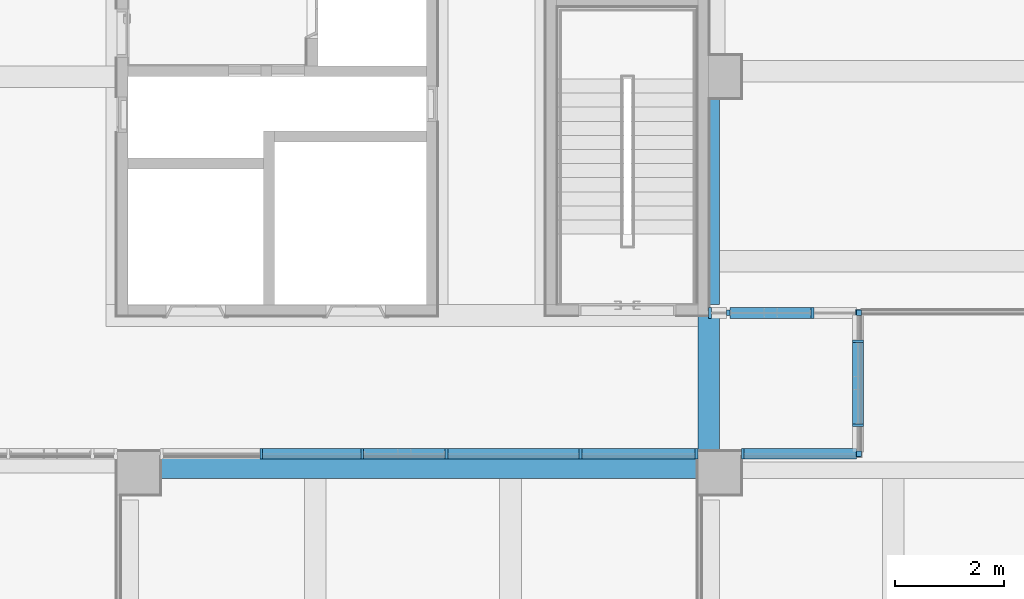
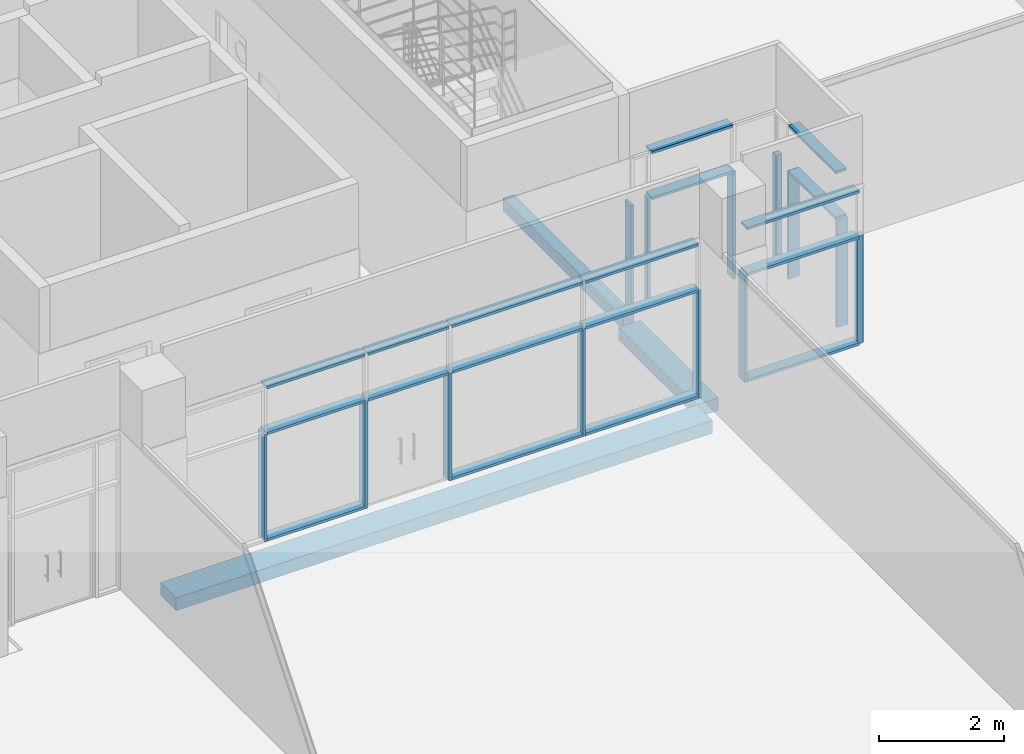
# One storey, part 6 of 74: 33 members, 2 beams, 4 elements without a shape of their own.
"""IFC2X3 building model written with IfcOpenShell, lengths in millimetres."""

from ifc_helpers import new_model, entity, si_unit, converted_unit, derived_unit, direction, frame, frame_2d, origin, origin_2d_with_axis, place, context, subcontext, project, spatial, rectangle, extrude, source, transform, mapped, material, type_object, type_shapes, element, aggregate, save


model = new_model("IFC2X3")

# Units and contexts
model_context = context("Model", 3, precision=0.01, world=origin(), true_north=direction((6.123031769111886e-17, 1.0)))
body_context = subcontext(model_context, "Body", "Model", "MODEL_VIEW")
ifc_project = project(units=[si_unit("LENGTHUNIT", "METRE", prefix="MILLI"), si_unit("AREAUNIT", "SQUARE_METRE"), si_unit("VOLUMEUNIT", "CUBIC_METRE"), converted_unit("PLANEANGLEUNIT", "DEGREE", entity("IfcRatioMeasure", 0.017453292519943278), si_unit("PLANEANGLEUNIT", "RADIAN"), dimensions=[0, 0, 0, 0, 0, 0, 0]), si_unit("MASSUNIT", "GRAM", prefix="KILO"), derived_unit("MASSDENSITYUNIT", [(si_unit("MASSUNIT", "GRAM", prefix="KILO"), 1), (si_unit("LENGTHUNIT", "METRE"), -3)]), derived_unit("MOMENTOFINERTIAUNIT", [(si_unit("LENGTHUNIT", "METRE"), 4)]), si_unit("TIMEUNIT", "SECOND"), si_unit("FREQUENCYUNIT", "HERTZ"), si_unit("THERMODYNAMICTEMPERATUREUNIT", "DEGREE_CELSIUS"), derived_unit("THERMALTRANSMITTANCEUNIT", [(si_unit("MASSUNIT", "GRAM", prefix="KILO"), 1), (si_unit("THERMODYNAMICTEMPERATUREUNIT", "KELVIN"), -1), (si_unit("TIMEUNIT", "SECOND"), -3)]), derived_unit("VOLUMETRICFLOWRATEUNIT", [(si_unit("LENGTHUNIT", "METRE"), 3), (si_unit("TIMEUNIT", "SECOND"), -1)]), derived_unit("MASSFLOWRATEUNIT", [(si_unit("MASSUNIT", "GRAM", prefix="KILO"), 1), (si_unit("TIMEUNIT", "SECOND"), -1)]), derived_unit("ROTATIONALFREQUENCYUNIT", [(si_unit("TIMEUNIT", "SECOND"), -1)]), si_unit("ELECTRICCURRENTUNIT", "AMPERE"), si_unit("ELECTRICVOLTAGEUNIT", "VOLT"), si_unit("POWERUNIT", "WATT"), si_unit("FORCEUNIT", "NEWTON", prefix="KILO"), si_unit("ILLUMINANCEUNIT", "LUX"), si_unit("LUMINOUSFLUXUNIT", "LUMEN"), si_unit("LUMINOUSINTENSITYUNIT", "CANDELA"), derived_unit("USERDEFINED", [(si_unit("MASSUNIT", "GRAM", prefix="KILO"), -1), (si_unit("LENGTHUNIT", "METRE"), -2), (si_unit("TIMEUNIT", "SECOND"), 3), (si_unit("LUMINOUSFLUXUNIT", "LUMEN"), 1)]), derived_unit("SOUNDPOWERUNIT", [(si_unit("MASSUNIT", "GRAM", prefix="KILO"), 1), (si_unit("LENGTHUNIT", "METRE"), 2), (si_unit("TIMEUNIT", "SECOND"), -3)]), derived_unit("SOUNDPRESSUREUNIT", [(si_unit("MASSUNIT", "GRAM", prefix="KILO"), 1), (si_unit("LENGTHUNIT", "METRE"), -1), (si_unit("TIMEUNIT", "SECOND"), -2)]), derived_unit("LINEARVELOCITYUNIT", [(si_unit("LENGTHUNIT", "METRE"), 1), (si_unit("TIMEUNIT", "SECOND"), -1)]), si_unit("PRESSUREUNIT", "PASCAL"), derived_unit("USERDEFINED", [(si_unit("LENGTHUNIT", "METRE"), -2), (si_unit("MASSUNIT", "GRAM", prefix="KILO"), 1), (si_unit("TIMEUNIT", "SECOND"), -2)]), derived_unit("LINEARFORCEUNIT", [(si_unit("MASSUNIT", "GRAM", prefix="KILO"), 1), (si_unit("LENGTHUNIT", "METRE"), 1), (si_unit("TIMEUNIT", "SECOND"), -2), (si_unit("LENGTHUNIT", "METRE"), -1)]), derived_unit("PLANARFORCEUNIT", [(si_unit("MASSUNIT", "GRAM", prefix="KILO"), 1), (si_unit("LENGTHUNIT", "METRE"), 1), (si_unit("TIMEUNIT", "SECOND"), -2), (si_unit("LENGTHUNIT", "METRE"), -2)])], contexts=[model_context])

# Site, building, storey
site_placement = place(None, frame((-14167.972527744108, -657.2125860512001, 0.0)))
site = spatial("IfcSite", under=ifc_project, at=site_placement, Name="Default", CompositionType="ELEMENT")
building_placement = place(site_placement, origin())
building = spatial("IfcBuilding", under=site, at=building_placement, Name="Sample Building", CompositionType="ELEMENT")
storey_placement = place(building_placement, frame((0.0, 0.0, 4800.0)))
storey = spatial("IfcBuildingStorey", under=building, at=storey_placement, Name="지상 2층", CompositionType="ELEMENT", Elevation=4800.000000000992)

# Curtain wall, members
curtain_wall_type = type_object("IfcCurtainWallType", Name="커튼월:CW112-스테인리스 스틸 커튼월", PredefinedType="NOTDEFINED")
curtain_wall_1_placement = place(storey_placement, frame((0.0, 0.0, -4800.0)))
curtain_wall_1 = element("IfcCurtainWall", 1, at=curtain_wall_1_placement, inside=storey, type_object=curtain_wall_type, Name="커튼월:CW112-스테인리스 스틸 커튼월", ObjectType="커튼월:CW112-스테인리스 스틸 커튼월")
ifc_material_1 = material(Name="<Unnamed>")
member_type_1 = type_object("IfcMemberType", Name="직사각형 멀리언:CW200-직사각형 멀리언 50x200mm", PredefinedType="MULLION", material=ifc_material_1)
shared_shape_1 = source(origin(), body_context, "Body", "SweptSolid", [
    extrude(rectangle(XDim=200.0, YDim=50.0, at=origin_2d_with_axis()), frame((0.0, 0.0, -2100.0), z_axis=(0.0, 0.0, 1.0), x_axis=(0.0, -1.0, 0.0)), (0.0, 0.0, 1.0), 2100.0),
])
type_shapes(member_type_1, [shared_shape_1])
member_1_placement = place(curtain_wall_1_placement, frame((32727.97249113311, 13012.212307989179, 4880.0), z_axis=(0.0, 0.0, -1.0), x_axis=(1.0, 0.0, 0.0)))
member_1 = element("IfcMember", 2, at=member_1_placement, type_object=member_type_1, material=ifc_material_1, Name="직사각형 멀리언:CW200-직사각형 멀리언 50x200mm", ObjectType="직사각형 멀리언:CW200-직사각형 멀리언 50x200mm", context=body_context, shape_type="MappedRepresentation", body=[
    mapped(shared_shape_1, transform((0.0, 0.0, 0.0), scale=1.0)),
])
member_2_placement = place(curtain_wall_1_placement, frame((34587.972491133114, 13012.212307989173, 4880.0), z_axis=(0.0, 0.0, -1.0), x_axis=(1.0, 0.0, 0.0)))
member_2 = element("IfcMember", 3, at=member_2_placement, type_object=member_type_1, material=ifc_material_1, Name="직사각형 멀리언:CW200-직사각형 멀리언 50x200mm", ObjectType="직사각형 멀리언:CW200-직사각형 멀리언 50x200mm", context=body_context, shape_type="MappedRepresentation", body=[
    mapped(shared_shape_1, transform((0.0, 0.0, 0.0), scale=1.0)),
])
member_3_placement = place(curtain_wall_1_placement, frame((36137.97249113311, 13012.212307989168, 4880.0), z_axis=(0.0, 0.0, -1.0), x_axis=(1.0, 0.0, 0.0)))
member_3 = element("IfcMember", 4, at=member_3_placement, type_object=member_type_1, material=ifc_material_1, Name="직사각형 멀리언:CW200-직사각형 멀리언 50x200mm", ObjectType="직사각형 멀리언:CW200-직사각형 멀리언 50x200mm", context=body_context, shape_type="MappedRepresentation", body=[
    mapped(shared_shape_1, transform((0.0, 0.0, 0.0), scale=1.0)),
])
member_4_placement = place(curtain_wall_1_placement, frame((38607.972491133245, 13012.212307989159, 4880.0), z_axis=(0.0, 0.0, -1.0), x_axis=(1.0, 0.0, 0.0)))
member_4 = element("IfcMember", 5, at=member_4_placement, type_object=member_type_1, material=ifc_material_1, Name="직사각형 멀리언:CW200-직사각형 멀리언 50x200mm", ObjectType="직사각형 멀리언:CW200-직사각형 멀리언 50x200mm", context=body_context, shape_type="MappedRepresentation", body=[
    mapped(shared_shape_1, transform((0.0, 0.0, 0.0), scale=1.0)),
])

curtain_wall_2_placement = place(storey_placement, frame((0.0, 0.0, -4800.0)))
curtain_wall_2 = element("IfcCurtainWall", 6, at=curtain_wall_2_placement, inside=storey, type_object=curtain_wall_type, Name="커튼월:CW112-스테인리스 스틸 커튼월", ObjectType="커튼월:CW112-스테인리스 스틸 커튼월")
member_5_placement = place(curtain_wall_2_placement, frame((43717.972491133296, 13537.177678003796, 4880.0), z_axis=(0.0, 0.0, -1.0), x_axis=(0.0, 1.0, 0.0)))
member_5 = element("IfcMember", 7, at=member_5_placement, type_object=member_type_1, material=ifc_material_1, Name="직사각형 멀리언:CW200-직사각형 멀리언 50x200mm", ObjectType="직사각형 멀리언:CW200-직사각형 멀리언 50x200mm", context=body_context, shape_type="MappedRepresentation", body=[
    mapped(shared_shape_1, transform((0.0, 0.0, 0.0), scale=1.0)),
])
member_6_placement = place(curtain_wall_2_placement, frame((43717.972491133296, 15087.177678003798, 4880.0), z_axis=(0.0, 0.0, -1.0), x_axis=(0.0, 1.0, 0.0)))
member_6 = element("IfcMember", 8, at=member_6_placement, type_object=member_type_1, material=ifc_material_1, Name="직사각형 멀리언:CW200-직사각형 멀리언 50x200mm", ObjectType="직사각형 멀리언:CW200-직사각형 멀리언 50x200mm", context=body_context, shape_type="MappedRepresentation", body=[
    mapped(shared_shape_1, transform((0.0, 0.0, 0.0), scale=1.0)),
])

# Curtain wall, member
curtain_wall_3_placement = place(storey_placement, frame((0.0, 0.0, -4800.0)))
curtain_wall_3 = element("IfcCurtainWall", 9, at=curtain_wall_3_placement, inside=storey, type_object=curtain_wall_type, Name="커튼월:CW112-스테인리스 스틸 커튼월", ObjectType="커튼월:CW112-스테인리스 스틸 커튼월")
member_type_2 = type_object("IfcMemberType", Name="직사각형 멀리언:CW200-직사각형 멀리언 50x200mm", PredefinedType="MULLION", material=ifc_material_1)
shared_shape_2 = source(origin(), body_context, "Body", "SweptSolid", [
    extrude(rectangle(XDim=200.0, YDim=50.0, at=origin_2d_with_axis()), frame((-25.0, 0.0, -2100.0), z_axis=(0.0, 0.0, 1.0), x_axis=(0.0, -1.0, 0.0)), (0.0, 0.0, 1.0), 2099.9999999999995),
])
type_shapes(member_type_2, [shared_shape_2])
member_7_placement = place(curtain_wall_3_placement, frame((41567.97249113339, 13012.19487839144, 6980.0), z_axis=(0.0, 0.0, 1.0), x_axis=(-1.0, 0.0, 0.0)))
member_7 = element("IfcMember", 10, at=member_7_placement, type_object=member_type_2, material=ifc_material_1, Name="직사각형 멀리언:CW200-직사각형 멀리언 50x200mm", ObjectType="직사각형 멀리언:CW200-직사각형 멀리언 50x200mm", context=body_context, shape_type="MappedRepresentation", body=[
    mapped(shared_shape_2, transform((0.0, 0.0, 0.0), scale=1.0)),
])

# Member
member_type_3 = type_object("IfcMemberType", Name="직사각형 멀리언:CW200-직사각형 멀리언 50x200mm", PredefinedType="MULLION", material=ifc_material_1)
shared_shape_3 = source(origin(), body_context, "Body", "SweptSolid", [
    extrude(rectangle(XDim=200.0, YDim=50.0, at=origin_2d_with_axis()), frame((-25.0, 0.0, -2100.0), z_axis=(0.0, 0.0, 1.0), x_axis=(0.0, -1.0, 0.0)), (0.0, 0.0, 1.0), 2100.0),
])
type_shapes(member_type_3, [shared_shape_3])
member_8_placement = place(curtain_wall_1_placement, frame((40767.9724911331, 13012.212307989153, 4880.0), z_axis=(0.0, 0.0, -1.0), x_axis=(1.0, 0.0, 0.0)))
member_8 = element("IfcMember", 11, at=member_8_placement, type_object=member_type_3, material=ifc_material_1, Name="직사각형 멀리언:CW200-직사각형 멀리언 50x200mm", ObjectType="직사각형 멀리언:CW200-직사각형 멀리언 50x200mm", context=body_context, shape_type="MappedRepresentation", body=[
    mapped(shared_shape_3, transform((0.0, 0.0, 0.0), scale=1.0)),
])

member_type_4 = type_object("IfcMemberType", Name="직사각형 멀리언:CW200-직사각형 멀리언 50x200mm", PredefinedType="MULLION", material=ifc_material_1)
shared_shape_4 = source(origin(), body_context, "Body", "SweptSolid", [
    extrude(rectangle(XDim=200.0, YDim=50.0, at=origin_2d_with_axis()), frame((-25.0, 0.0, -1500.0), z_axis=(0.0, 0.0, 1.0), x_axis=(0.0, -1.0, 0.0)), (0.0, 0.0, 1.0), 1500.0000000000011),
])
type_shapes(member_type_4, [shared_shape_4])
member_9_placement = place(curtain_wall_1_placement, frame((36112.97249113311, 13012.212307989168, 7900.0), z_axis=(1.0, 0.0, 0.0), x_axis=(0.0, 0.0, 1.0)))
member_9 = element("IfcMember", 12, at=member_9_placement, type_object=member_type_4, material=ifc_material_1, Name="직사각형 멀리언:CW200-직사각형 멀리언 50x200mm", ObjectType="직사각형 멀리언:CW200-직사각형 멀리언 50x200mm", context=body_context, shape_type="MappedRepresentation", body=[
    mapped(shared_shape_4, transform((0.0, 0.0, 0.0), scale=1.0)),
])

member_10_placement = place(curtain_wall_2_placement, frame((43717.972491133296, 15062.177678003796, 7900.0), z_axis=(0.0, 1.0, 0.0), x_axis=(0.0, 0.0, 1.0)))
member_10 = element("IfcMember", 13, at=member_10_placement, type_object=member_type_4, material=ifc_material_1, Name="직사각형 멀리언:CW200-직사각형 멀리언 50x200mm", ObjectType="직사각형 멀리언:CW200-직사각형 멀리언 50x200mm", context=body_context, shape_type="MappedRepresentation", body=[
    mapped(shared_shape_4, transform((0.0, 0.0, 0.0), scale=1.0)),
])

member_type_5 = type_object("IfcMemberType", Name="직사각형 멀리언:CW200-직사각형 멀리언 50x200mm", PredefinedType="MULLION", material=ifc_material_1)
shared_shape_5 = source(origin(), body_context, "Body", "SweptSolid", [
    extrude(rectangle(XDim=200.0, YDim=50.0, at=origin_2d_with_axis()), frame((0.0, 0.0, -1500.0), z_axis=(0.0, 0.0, 1.0), x_axis=(0.0, -1.0, 0.0)), (0.0, 0.0, 1.0), 1500.0000000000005),
])
type_shapes(member_type_5, [shared_shape_5])
member_11_placement = place(curtain_wall_1_placement, frame((36112.97249113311, 13012.212307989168, 6980.0), z_axis=(1.0, 0.0, 0.0), x_axis=(0.0, 0.0, 1.0)))
member_11 = element("IfcMember", 14, at=member_11_placement, type_object=member_type_5, material=ifc_material_1, Name="직사각형 멀리언:CW200-직사각형 멀리언 50x200mm", ObjectType="직사각형 멀리언:CW200-직사각형 멀리언 50x200mm", context=body_context, shape_type="MappedRepresentation", body=[
    mapped(shared_shape_5, transform((0.0, 0.0, 0.0), scale=1.0)),
])

member_12_placement = place(curtain_wall_2_placement, frame((43717.972491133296, 15062.177678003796, 6980.0), z_axis=(0.0, 1.0, 0.0), x_axis=(0.0, 0.0, 1.0)))
member_12 = element("IfcMember", 15, at=member_12_placement, type_object=member_type_5, material=ifc_material_1, Name="직사각형 멀리언:CW200-직사각형 멀리언 50x200mm", ObjectType="직사각형 멀리언:CW200-직사각형 멀리언 50x200mm", context=body_context, shape_type="MappedRepresentation", body=[
    mapped(shared_shape_5, transform((0.0, 0.0, 0.0), scale=1.0)),
])

member_type_6 = type_object("IfcMemberType", Name="직사각형 멀리언:CW200-직사각형 멀리언 100 x 100mm", PredefinedType="MULLION", material=ifc_material_1)
shared_shape_6 = source(origin(), body_context, "Body", "SweptSolid", [
    extrude(rectangle(XDim=100.00000000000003, YDim=100.0, at=origin_2d_with_axis()), frame((-50.0, 0.0, -2100.0), z_axis=(0.0, 0.0, 1.0), x_axis=(0.0, -1.0, 0.0)), (0.0, 0.0, 1.0), 2100.0),
])
type_shapes(member_type_6, [shared_shape_6])
member_13_placement = place(curtain_wall_3_placement, frame((43785.97249113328, 13012.194878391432, 4880.0), z_axis=(0.0, 0.0, -1.0), x_axis=(1.0, 0.0, 0.0)))
member_13 = element("IfcMember", 16, at=member_13_placement, type_object=member_type_6, material=ifc_material_1, Name="직사각형 멀리언:CW200-직사각형 멀리언 100 x 100mm", ObjectType="직사각형 멀리언:CW200-직사각형 멀리언 100 x 100mm", context=body_context, shape_type="MappedRepresentation", body=[
    mapped(shared_shape_6, transform((0.0, 0.0, 0.0), scale=1.0)),
])

member_14_placement = place(curtain_wall_2_placement, frame((43717.972491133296, 15670.177678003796, 4880.0), z_axis=(0.0, 0.0, -1.0), x_axis=(0.0, 1.0, 0.0)))
member_14 = element("IfcMember", 17, at=member_14_placement, type_object=member_type_6, material=ifc_material_1, Name="직사각형 멀리언:CW200-직사각형 멀리언 100 x 100mm", ObjectType="직사각형 멀리언:CW200-직사각형 멀리언 100 x 100mm", context=body_context, shape_type="MappedRepresentation", body=[
    mapped(shared_shape_6, transform((0.0, 0.0, 0.0), scale=1.0)),
])

member_type_7 = type_object("IfcMemberType", Name="직사각형 멀리언:CW200-직사각형 멀리언 50x200mm", PredefinedType="MULLION", material=ifc_material_1)
shared_shape_7 = source(origin(), body_context, "Body", "SweptSolid", [
    extrude(rectangle(XDim=200.0, YDim=50.0, at=origin_2d_with_axis()), frame((-25.0, 0.0, -2085.0), z_axis=(0.0, 0.0, 1.0), x_axis=(0.0, -1.0, 0.0)), (0.0, 0.0, 1.0), 2084.9999999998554),
])
type_shapes(member_type_7, [shared_shape_7])
member_15_placement = place(curtain_wall_1_placement, frame((40717.97249113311, 13012.212307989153, 7900.0), z_axis=(1.0, 0.0, 0.0), x_axis=(0.0, 0.0, 1.0)))
member_15 = element("IfcMember", 18, at=member_15_placement, type_object=member_type_7, material=ifc_material_1, Name="직사각형 멀리언:CW200-직사각형 멀리언 50x200mm", ObjectType="직사각형 멀리언:CW200-직사각형 멀리언 50x200mm", context=body_context, shape_type="MappedRepresentation", body=[
    mapped(shared_shape_7, transform((0.0, 0.0, 0.0), scale=1.0)),
])

member_type_8 = type_object("IfcMemberType", Name="직사각형 멀리언:CW200-직사각형 멀리언 50x200mm", PredefinedType="MULLION", material=ifc_material_1)
shared_shape_8 = source(origin(), body_context, "Body", "SweptSolid", [
    extrude(rectangle(XDim=200.0, YDim=50.0, at=origin_2d_with_axis()), frame((-25.0, 0.0, -1810.0), z_axis=(0.0, 0.0, 1.0), x_axis=(0.0, -1.0, 0.0)), (0.0, 0.0, 1.0), 1810.0000000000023),
])
type_shapes(member_type_8, [shared_shape_8])
member_16_placement = place(curtain_wall_1_placement, frame((32752.97249113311, 13012.212307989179, 4880.0), z_axis=(-1.0, 0.0, 0.0), x_axis=(0.0, 0.0, -1.0)))
member_16 = element("IfcMember", 19, at=member_16_placement, type_object=member_type_8, material=ifc_material_1, Name="직사각형 멀리언:CW200-직사각형 멀리언 50x200mm", ObjectType="직사각형 멀리언:CW200-직사각형 멀리언 50x200mm", context=body_context, shape_type="MappedRepresentation", body=[
    mapped(shared_shape_8, transform((0.0, 0.0, 0.0), scale=1.0)),
])

member_type_9 = type_object("IfcMemberType", Name="직사각형 멀리언:CW200-직사각형 멀리언 50x200mm", PredefinedType="MULLION", material=ifc_material_1)
shared_shape_9 = source(origin(), body_context, "Body", "SweptSolid", [
    extrude(rectangle(XDim=200.0, YDim=50.0, at=origin_2d_with_axis()), frame((0.0, 0.0, -1810.0), z_axis=(0.0, 0.0, 1.0), x_axis=(0.0, -1.0, 0.0)), (0.0, 0.0, 1.0), 1809.999999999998),
])
type_shapes(member_type_9, [shared_shape_9])
member_17_placement = place(curtain_wall_1_placement, frame((34562.972491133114, 13012.212307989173, 6980.0), z_axis=(1.0, 0.0, 0.0), x_axis=(0.0, 0.0, 1.0)))
member_17 = element("IfcMember", 20, at=member_17_placement, type_object=member_type_9, material=ifc_material_1, Name="직사각형 멀리언:CW200-직사각형 멀리언 50x200mm", ObjectType="직사각형 멀리언:CW200-직사각형 멀리언 50x200mm", context=body_context, shape_type="MappedRepresentation", body=[
    mapped(shared_shape_9, transform((0.0, 0.0, 0.0), scale=1.0)),
])

member_type_10 = type_object("IfcMemberType", Name="직사각형 멀리언:CW200-직사각형 멀리언 50x200mm", PredefinedType="MULLION", material=ifc_material_1)
shared_shape_10 = source(origin(), body_context, "Body", "SweptSolid", [
    extrude(rectangle(XDim=200.0, YDim=50.0, at=origin_2d_with_axis()), frame((-25.0, 0.0, -1810.0), z_axis=(0.0, 0.0, 1.0), x_axis=(0.0, -1.0, 0.0)), (0.0, 0.0, 1.0), 1809.999999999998),
])
type_shapes(member_type_10, [shared_shape_10])
member_18_placement = place(curtain_wall_1_placement, frame((34562.972491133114, 13012.212307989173, 7900.0), z_axis=(1.0, 0.0, 0.0), x_axis=(0.0, 0.0, 1.0)))
member_18 = element("IfcMember", 21, at=member_18_placement, type_object=member_type_10, material=ifc_material_1, Name="직사각형 멀리언:CW200-직사각형 멀리언 50x200mm", ObjectType="직사각형 멀리언:CW200-직사각형 멀리언 50x200mm", context=body_context, shape_type="MappedRepresentation", body=[
    mapped(shared_shape_10, transform((0.0, 0.0, 0.0), scale=1.0)),
])

member_type_11 = type_object("IfcMemberType", Name="직사각형 멀리언:CW200-직사각형 멀리언 50x200mm", PredefinedType="MULLION", material=ifc_material_1)
shared_shape_11 = source(origin(), body_context, "Body", "SweptSolid", [
    extrude(rectangle(XDim=200.0, YDim=50.0, at=origin_2d_with_axis()), frame((-25.0, 0.0, -2420.0), z_axis=(0.0, 0.0, 1.0), x_axis=(0.0, -1.0, 0.0)), (0.0, 0.0, 1.0), 2420.0000000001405),
])
type_shapes(member_type_11, [shared_shape_11])
member_19_placement = place(curtain_wall_1_placement, frame((36162.97249113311, 13012.212307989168, 4880.0), z_axis=(-1.0, 0.0, 0.0), x_axis=(0.0, 0.0, -1.0)))
member_19 = element("IfcMember", 22, at=member_19_placement, type_object=member_type_11, material=ifc_material_1, Name="직사각형 멀리언:CW200-직사각형 멀리언 50x200mm", ObjectType="직사각형 멀리언:CW200-직사각형 멀리언 50x200mm", context=body_context, shape_type="MappedRepresentation", body=[
    mapped(shared_shape_11, transform((0.0, 0.0, 0.0), scale=1.0)),
])

member_type_12 = type_object("IfcMemberType", Name="직사각형 멀리언:CW200-직사각형 멀리언 50x200mm", PredefinedType="MULLION", material=ifc_material_1)
shared_shape_12 = source(origin(), body_context, "Body", "SweptSolid", [
    extrude(rectangle(XDim=200.0, YDim=50.0, at=origin_2d_with_axis()), frame((0.0, 0.0, -2420.0), z_axis=(0.0, 0.0, 1.0), x_axis=(0.0, -1.0, 0.0)), (0.0, 0.0, 1.0), 2420.0000000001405),
])
type_shapes(member_type_12, [shared_shape_12])
member_20_placement = place(curtain_wall_1_placement, frame((38582.972491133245, 13012.212307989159, 6980.0), z_axis=(1.0, 0.0, 0.0), x_axis=(0.0, 0.0, 1.0)))
member_20 = element("IfcMember", 23, at=member_20_placement, type_object=member_type_12, material=ifc_material_1, Name="직사각형 멀리언:CW200-직사각형 멀리언 50x200mm", ObjectType="직사각형 멀리언:CW200-직사각형 멀리언 50x200mm", context=body_context, shape_type="MappedRepresentation", body=[
    mapped(shared_shape_12, transform((0.0, 0.0, 0.0), scale=1.0)),
])

member_type_13 = type_object("IfcMemberType", Name="직사각형 멀리언:CW200-직사각형 멀리언 50x200mm", PredefinedType="MULLION", material=ifc_material_1)
shared_shape_13 = source(origin(), body_context, "Body", "SweptSolid", [
    extrude(rectangle(XDim=200.0, YDim=50.0, at=origin_2d_with_axis()), frame((-25.0, 0.0, -2420.0), z_axis=(0.0, 0.0, 1.0), x_axis=(0.0, -1.0, 0.0)), (0.0, 0.0, 1.0), 2420.0000000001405),
])
type_shapes(member_type_13, [shared_shape_13])
member_21_placement = place(curtain_wall_1_placement, frame((38582.972491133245, 13012.212307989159, 7900.0), z_axis=(1.0, 0.0, 0.0), x_axis=(0.0, 0.0, 1.0)))
member_21 = element("IfcMember", 24, at=member_21_placement, type_object=member_type_13, material=ifc_material_1, Name="직사각형 멀리언:CW200-직사각형 멀리언 50x200mm", ObjectType="직사각형 멀리언:CW200-직사각형 멀리언 50x200mm", context=body_context, shape_type="MappedRepresentation", body=[
    mapped(shared_shape_13, transform((0.0, 0.0, 0.0), scale=1.0)),
])

member_type_14 = type_object("IfcMemberType", Name="직사각형 멀리언:CW200-직사각형 멀리언 50x200mm", PredefinedType="MULLION", material=ifc_material_1)
shared_shape_14 = source(origin(), body_context, "Body", "SweptSolid", [
    extrude(rectangle(XDim=200.0, YDim=50.0, at=origin_2d_with_axis()), frame((-25.0, 0.0, -2085.0), z_axis=(0.0, 0.0, 1.0), x_axis=(0.0, -1.0, 0.0)), (0.0, 0.0, 1.0), 2084.9999999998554),
])
type_shapes(member_type_14, [shared_shape_14])
member_22_placement = place(curtain_wall_1_placement, frame((38632.972491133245, 13012.212307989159, 4880.0), z_axis=(-1.0, 0.0, 0.0), x_axis=(0.0, 0.0, -1.0)))
member_22 = element("IfcMember", 25, at=member_22_placement, type_object=member_type_14, material=ifc_material_1, Name="직사각형 멀리언:CW200-직사각형 멀리언 50x200mm", ObjectType="직사각형 멀리언:CW200-직사각형 멀리언 50x200mm", context=body_context, shape_type="MappedRepresentation", body=[
    mapped(shared_shape_14, transform((0.0, 0.0, 0.0), scale=1.0)),
])

member_type_15 = type_object("IfcMemberType", Name="직사각형 멀리언:CW200-직사각형 멀리언 50x200mm", PredefinedType="MULLION", material=ifc_material_1)
shared_shape_15 = source(origin(), body_context, "Body", "SweptSolid", [
    extrude(rectangle(XDim=200.0, YDim=50.0, at=origin_2d_with_axis()), frame((0.0, 0.0, -2085.0), z_axis=(0.0, 0.0, 1.0), x_axis=(0.0, -1.0, 0.0)), (0.0, 0.0, 1.0), 2084.9999999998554),
])
type_shapes(member_type_15, [shared_shape_15])
member_23_placement = place(curtain_wall_1_placement, frame((40717.97249113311, 13012.212307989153, 6980.0), z_axis=(1.0, 0.0, 0.0), x_axis=(0.0, 0.0, 1.0)))
member_23 = element("IfcMember", 26, at=member_23_placement, type_object=member_type_15, material=ifc_material_1, Name="직사각형 멀리언:CW200-직사각형 멀리언 50x200mm", ObjectType="직사각형 멀리언:CW200-직사각형 멀리언 50x200mm", context=body_context, shape_type="MappedRepresentation", body=[
    mapped(shared_shape_15, transform((0.0, 0.0, 0.0), scale=1.0)),
])

aggregate(curtain_wall_1, [member_15, member_8, member_16, member_17, member_1, member_18, member_11, member_2, member_9, member_19, member_20, member_3, member_21, member_22, member_23, member_4])

member_type_16 = type_object("IfcMemberType", Name="직사각형 멀리언:CW200-직사각형 멀리언 50x200mm", PredefinedType="MULLION", material=ifc_material_1)
shared_shape_16 = source(origin(), body_context, "Body", "SweptSolid", [
    extrude(rectangle(XDim=200.0, YDim=50.0, at=origin_2d_with_axis()), frame((-25.0, 0.0, -2068.0), z_axis=(0.0, 0.0, 1.0), x_axis=(0.0, -1.0, 0.0)), (0.0, 0.0, 1.0), 2067.999999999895),
])
type_shapes(member_type_16, [shared_shape_16])
member_24_placement = place(curtain_wall_3_placement, frame((43685.97249113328, 13012.194878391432, 7900.0), z_axis=(1.0, 0.0, 0.0), x_axis=(0.0, 0.0, 1.0)))
member_24 = element("IfcMember", 27, at=member_24_placement, type_object=member_type_16, material=ifc_material_1, Name="직사각형 멀리언:CW200-직사각형 멀리언 50x200mm", ObjectType="직사각형 멀리언:CW200-직사각형 멀리언 50x200mm", context=body_context, shape_type="MappedRepresentation", body=[
    mapped(shared_shape_16, transform((0.0, 0.0, 0.0), scale=1.0)),
])

member_type_17 = type_object("IfcMemberType", Name="직사각형 멀리언:CW200-직사각형 멀리언 50x200mm", PredefinedType="MULLION", material=ifc_material_1)
shared_shape_17 = source(origin(), body_context, "Body", "SweptSolid", [
    extrude(rectangle(XDim=200.0, YDim=50.0, at=origin_2d_with_axis()), frame((-25.0, 0.0, -2068.0), z_axis=(0.0, 0.0, 1.0), x_axis=(0.0, -1.0, 0.0)), (0.0, 0.0, 1.0), 2067.999999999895),
])
type_shapes(member_type_17, [shared_shape_17])
member_25_placement = place(curtain_wall_3_placement, frame((41617.97249113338, 13012.19487839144, 4880.0), z_axis=(-1.0, 0.0, 0.0), x_axis=(0.0, 0.0, -1.0)))
member_25 = element("IfcMember", 28, at=member_25_placement, type_object=member_type_17, material=ifc_material_1, Name="직사각형 멀리언:CW200-직사각형 멀리언 50x200mm", ObjectType="직사각형 멀리언:CW200-직사각형 멀리언 50x200mm", context=body_context, shape_type="MappedRepresentation", body=[
    mapped(shared_shape_17, transform((0.0, 0.0, 0.0), scale=1.0)),
])

member_type_18 = type_object("IfcMemberType", Name="직사각형 멀리언:CW200-직사각형 멀리언 50x200mm", PredefinedType="MULLION", material=ifc_material_1)
shared_shape_18 = source(origin(), body_context, "Body", "SweptSolid", [
    extrude(rectangle(XDim=200.0, YDim=50.0, at=origin_2d_with_axis()), frame((0.0, 0.0, -2068.0), z_axis=(0.0, 0.0, 1.0), x_axis=(0.0, -1.0, 0.0)), (0.0, 0.0, 1.0), 2067.999999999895),
])
type_shapes(member_type_18, [shared_shape_18])
member_26_placement = place(curtain_wall_3_placement, frame((43685.97249113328, 13012.194878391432, 6980.0), z_axis=(1.0, 0.0, 0.0), x_axis=(0.0, 0.0, 1.0)))
member_26 = element("IfcMember", 29, at=member_26_placement, type_object=member_type_18, material=ifc_material_1, Name="직사각형 멀리언:CW200-직사각형 멀리언 50x200mm", ObjectType="직사각형 멀리언:CW200-직사각형 멀리언 50x200mm", context=body_context, shape_type="MappedRepresentation", body=[
    mapped(shared_shape_18, transform((0.0, 0.0, 0.0), scale=1.0)),
])

aggregate(curtain_wall_3, [member_24, member_25, member_13, member_7, member_26])

member_type_19 = type_object("IfcMemberType", Name="직사각형 멀리언:CW200-직사각형 멀리언 100 x 100mm", PredefinedType="MULLION", material=ifc_material_1)
shared_shape_19 = source(origin(), body_context, "Body", "SweptSolid", [
    extrude(rectangle(XDim=100.00000000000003, YDim=100.0, at=origin_2d_with_axis()), frame((-50.0, 0.0, -2100.0), z_axis=(0.0, 0.0, 1.0), x_axis=(0.0, -1.0, 0.0)), (0.0, 0.0, 1.0), 2100.0),
])
type_shapes(member_type_19, [shared_shape_19])
member_27_placement = place(curtain_wall_2_placement, frame((43717.972491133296, 12949.194878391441, 6980.0), z_axis=(0.0, 0.0, 1.0), x_axis=(0.0, -1.0, 0.0)))
member_27 = element("IfcMember", 30, at=member_27_placement, type_object=member_type_19, material=ifc_material_1, Name="직사각형 멀리언:CW200-직사각형 멀리언 100 x 100mm", ObjectType="직사각형 멀리언:CW200-직사각형 멀리언 100 x 100mm", context=body_context, shape_type="MappedRepresentation", body=[
    mapped(shared_shape_19, transform((0.0, 0.0, 0.0), scale=1.0)),
])

aggregate(curtain_wall_2, [member_14, member_5, member_27, member_12, member_10, member_6])

# Curtain wall, members
curtain_wall_4_placement = place(storey_placement, frame((0.0, 0.0, -4800.0)))
curtain_wall_4 = element("IfcCurtainWall", 31, at=curtain_wall_4_placement, inside=storey, type_object=curtain_wall_type, Name="커튼월:CW112-스테인리스 스틸 커튼월", ObjectType="커튼월:CW112-스테인리스 스틸 커튼월")
member_type_20 = type_object("IfcMemberType", Name="직사각형 멀리언:CW200-직사각형 멀리언 50x200mm", PredefinedType="MULLION", material=ifc_material_1)
shared_shape_20 = source(origin(), body_context, "Body", "SweptSolid", [
    extrude(rectangle(XDim=200.0, YDim=50.0, at=origin_2d_with_axis()), frame((-25.0, 0.0, -2100.0), z_axis=(0.0, 0.0, 1.0), x_axis=(0.0, -1.0, 0.0)), (0.0, 0.0, 1.0), 2100.0),
])
type_shapes(member_type_20, [shared_shape_20])
member_28_placement = place(curtain_wall_4_placement, frame((40967.963798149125, 15607.177678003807, 4880.0), z_axis=(0.0, 0.0, -1.0), x_axis=(-1.0, 0.0, 0.0)))
member_28 = element("IfcMember", 32, at=member_28_placement, type_object=member_type_20, material=ifc_material_1, Name="직사각형 멀리언:CW200-직사각형 멀리언 50x200mm", ObjectType="직사각형 멀리언:CW200-직사각형 멀리언 50x200mm", context=body_context, shape_type="MappedRepresentation", body=[
    mapped(shared_shape_20, transform((0.0, 0.0, 0.0), scale=1.0)),
])
member_type_21 = type_object("IfcMemberType", Name="직사각형 멀리언:CW200-직사각형 멀리언 100 x 100mm", PredefinedType="MULLION", material=ifc_material_1)
shared_shape_21 = source(origin(), body_context, "Body", "SweptSolid", [
    extrude(rectangle(XDim=99.99999999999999, YDim=100.0, at=origin_2d_with_axis()), frame((-50.0, 0.0, -2100.0), z_axis=(0.0, 0.0, 1.0), x_axis=(0.0, -1.0, 0.0)), (0.0, 0.0, 1.0), 2100.0),
])
type_shapes(member_type_21, [shared_shape_21])
member_29_placement = place(curtain_wall_4_placement, frame((43785.97249113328, 15607.177678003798, 6980.0)))
member_29 = element("IfcMember", 33, at=member_29_placement, type_object=member_type_21, material=ifc_material_1, Name="직사각형 멀리언:CW200-직사각형 멀리언 100 x 100mm", ObjectType="직사각형 멀리언:CW200-직사각형 멀리언 100 x 100mm", context=body_context, shape_type="MappedRepresentation", body=[
    mapped(shared_shape_21, transform((0.0, 0.0, 0.0), scale=1.0)),
])
member_type_22 = type_object("IfcMemberType", Name="직사각형 멀리언:CW200-직사각형 멀리언 50x200mm", PredefinedType="MULLION", material=ifc_material_1)
shared_shape_22 = source(origin(), body_context, "Body", "SweptSolid", [
    extrude(rectangle(XDim=200.0, YDim=50.0, at=origin_2d_with_axis()), frame((0.0, 0.0, -1495.0), z_axis=(0.0, 0.0, 1.0), x_axis=(0.0, -1.0, 0.0)), (0.0, 0.0, 1.0), 1495.0000000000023),
])
type_shapes(member_type_22, [shared_shape_22])
member_30_placement = place(curtain_wall_4_placement, frame((41357.972491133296, 15607.177678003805, 6980.0), z_axis=(-1.0, 0.0, 0.0), x_axis=(0.0, 0.0, 1.0)))
member_30 = element("IfcMember", 34, at=member_30_placement, type_object=member_type_22, material=ifc_material_1, Name="직사각형 멀리언:CW200-직사각형 멀리언 50x200mm", ObjectType="직사각형 멀리언:CW200-직사각형 멀리언 50x200mm", context=body_context, shape_type="MappedRepresentation", body=[
    mapped(shared_shape_22, transform((0.0, 0.0, 0.0), scale=1.0)),
])
member_type_23 = type_object("IfcMemberType", Name="직사각형 멀리언:CW200-직사각형 멀리언 50x200mm", PredefinedType="MULLION", material=ifc_material_1)
shared_shape_23 = source(origin(), body_context, "Body", "SweptSolid", [
    extrude(rectangle(XDim=200.0, YDim=50.0, at=origin_2d_with_axis()), frame((0.0, 0.0, -2100.0), z_axis=(0.0, 0.0, 1.0), x_axis=(0.0, -1.0, 0.0)), (0.0, 0.0, 1.0), 2100.0),
])
type_shapes(member_type_23, [shared_shape_23])
member_31_placement = place(curtain_wall_4_placement, frame((42877.972491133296, 15607.1776780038, 4880.0), z_axis=(0.0, 0.0, -1.0), x_axis=(-1.0, 0.0, 0.0)))
member_31 = element("IfcMember", 35, at=member_31_placement, type_object=member_type_23, material=ifc_material_1, Name="직사각형 멀리언:CW200-직사각형 멀리언 50x200mm", ObjectType="직사각형 멀리언:CW200-직사각형 멀리언 50x200mm", context=body_context, shape_type="MappedRepresentation", body=[
    mapped(shared_shape_23, transform((0.0, 0.0, 0.0), scale=1.0)),
])
member_type_24 = type_object("IfcMemberType", Name="직사각형 멀리언:CW200-직사각형 멀리언 50x200mm", PredefinedType="MULLION", material=ifc_material_1)
shared_shape_24 = source(origin(), body_context, "Body", "SweptSolid", [
    extrude(rectangle(XDim=200.0, YDim=50.0, at=origin_2d_with_axis()), frame((-25.0, 0.0, -1495.0), z_axis=(0.0, 0.0, 1.0), x_axis=(0.0, -1.0, 0.0)), (0.0, 0.0, 1.0), 1495.0000000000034),
])
type_shapes(member_type_24, [shared_shape_24])
member_32_placement = place(curtain_wall_4_placement, frame((41357.972491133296, 15607.177678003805, 7900.0), z_axis=(-1.0, 0.0, 0.0), x_axis=(0.0, 0.0, 1.0)))
member_32 = element("IfcMember", 36, at=member_32_placement, type_object=member_type_24, material=ifc_material_1, Name="직사각형 멀리언:CW200-직사각형 멀리언 50x200mm", ObjectType="직사각형 멀리언:CW200-직사각형 멀리언 50x200mm", context=body_context, shape_type="MappedRepresentation", body=[
    mapped(shared_shape_24, transform((0.0, 0.0, 0.0), scale=1.0)),
])
member_type_25 = type_object("IfcMemberType", Name="직사각형 멀리언:CW200-직사각형 멀리언 60 x 100mm", PredefinedType="MULLION", material=ifc_material_1)
shared_shape_25 = source(origin(), body_context, "Body", "SweptSolid", [
    extrude(rectangle(XDim=100.0, YDim=60.0, at=origin_2d_with_axis()), frame((0.0, 0.0, -2100.0), z_axis=(0.0, 0.0, 1.0), x_axis=(0.0, -1.0, 0.0)), (0.0, 0.0, 1.0), 2100.0),
])
type_shapes(member_type_25, [shared_shape_25])
member_33_placement = place(curtain_wall_4_placement, frame((41327.972491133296, 15607.177678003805, 4880.0), z_axis=(0.0, 0.0, -1.0), x_axis=(-1.0, 0.0, 0.0)))
member_33 = element("IfcMember", 37, at=member_33_placement, type_object=member_type_25, material=ifc_material_1, Name="직사각형 멀리언:CW200-직사각형 멀리언 60 x 100mm", ObjectType="직사각형 멀리언:CW200-직사각형 멀리언 60 x 100mm", context=body_context, shape_type="MappedRepresentation", body=[
    mapped(shared_shape_25, transform((0.0, 0.0, 0.0), scale=1.0)),
])
aggregate(curtain_wall_4, [member_28, member_29, member_30, member_31, member_32, member_33])

# Beams
ifc_material_2 = material(Name="KBIMS-콘크리트")
beam_type_1 = type_object("IfcBeamType", Name="BM111-철근콘크리트구조 보:BM110-철근 콘크리트구조 보_500 x 400_2-10G9", PredefinedType="NOTDEFINED")
beam_1_placement = place(storey_placement, frame((30871.281488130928, 12807.212604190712, 0.0)))
element("IfcBeam", 38, at=beam_1_placement, inside=storey, type_object=beam_type_1, material=ifc_material_2, Name="BM111-철근콘크리트구조 보:BM110-철근 콘크리트구조 보_500 x 400_2-10G9", ObjectType="BM111-철근콘크리트구조 보:BM110-철근 콘크리트구조 보_500 x 400_2-10G9", context=body_context, shape_type="SweptSolid", body=[
    extrude(rectangle(XDim=250.00000000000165, YDim=500.0000000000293, at=frame_2d((0.0, -1.949729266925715e-11), x_axis=(1.0, 0.0))), frame((0.0, 0.0, -275.0), z_axis=(1.0, 0.0, 0.0), x_axis=(0.0, 0.0, -1.0)), (0.0, 0.0, 1.0), 9896.673653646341),
])
beam_type_2 = type_object("IfcBeamType", Name="BM111-철근콘크리트구조 보:BM110-철근 콘크리트구조 보_400 x 400_2-10G4", PredefinedType="BEAM", material=ifc_material_2)
shared_shape_26 = source(origin(), body_context, "Body", "SweptSolid", [
    extrude(rectangle(XDim=250.00000000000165, YDim=199.99134362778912, at=frame_2d((4.334310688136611e-12, 2.7000623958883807e-13), x_axis=(0.0, 1.0))), frame((41067.95946996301, 15757.212295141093, 4525.0), z_axis=(0.0, 1.0, 0.0), x_axis=(-1.0, 0.0, 0.0)), (0.0, 0.0, 1.0), 3837.5000128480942),
    extrude(rectangle(XDim=250.00000000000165, YDim=400.0000000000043, at=frame_2d((4.334310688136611e-12, 0.0), x_axis=(0.0, 1.0))), frame((40967.95514177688, 13057.212617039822, 4525.0), z_axis=(0.0, 1.0, 0.0), x_axis=(-1.0, 0.0, 0.0)), (0.0, 0.0, 1.0), 2499.99967810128),
])
type_shapes(beam_type_2, [shared_shape_26])
beam_2_placement = place(storey_placement, frame((0.0, 0.0, -4800.0)))
element("IfcBeam", 39, at=beam_2_placement, inside=storey, type_object=beam_type_2, material=ifc_material_2, Name="BM111-철근콘크리트구조 보:BM110-철근 콘크리트구조 보_400 x 400_2-10G4", ObjectType="BM111-철근콘크리트구조 보:BM110-철근 콘크리트구조 보_400 x 400_2-10G4", context=body_context, shape_type="MappedRepresentation", body=[
    mapped(shared_shape_26, transform((0.0, 0.0, 0.0), scale=1.0)),
])

save(model, "model.ifc")
